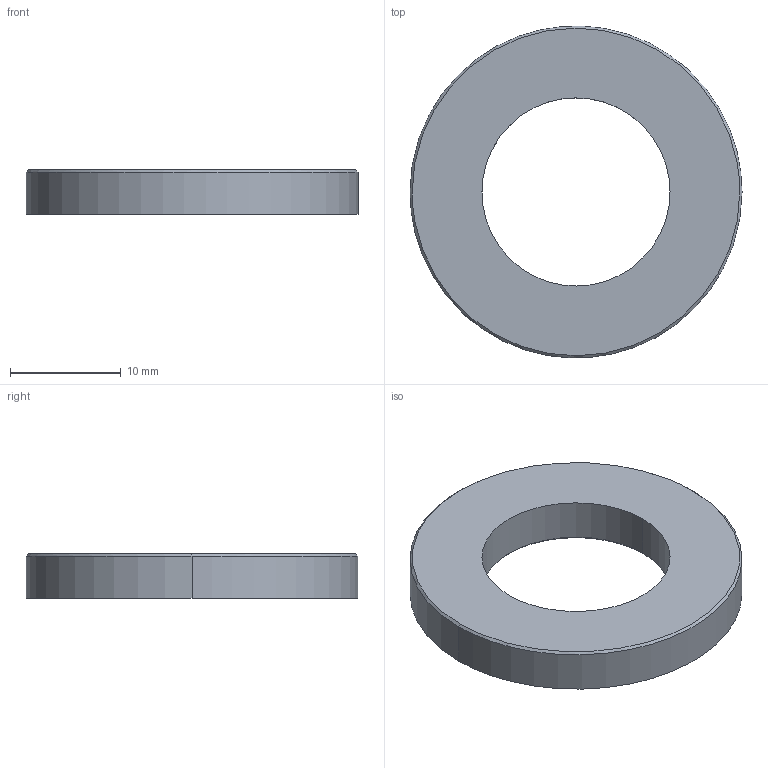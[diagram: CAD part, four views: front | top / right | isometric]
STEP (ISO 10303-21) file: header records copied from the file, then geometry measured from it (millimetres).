
FILE_DESCRIPTION(/* description */ (''),/* implementation_level */ '2;1');
FILE_NAME(/* name */ 'Washer2',/* time_stamp */ '2020-06-25T00:33:49-06:00',/* author */ (''),/* organization */ (''),/* preprocessor_version */ 'ST-DEVELOPER v15',/* originating_system */ '',/* authorisation */ '');
FILE_SCHEMA (('AUTOMOTIVE_DESIGN'));
Length unit declared in the file: millimetre
Products named in the file (1): Document
Bounding box: 30 x 29.97 x 4 mm (x, y, z)
Volume: 1920.3 mm3; surface area: 1533.8 mm2
Topology: 1 solids, 1 shells, 10 faces, 20 edges, 12 vertices
Faces by surface type: bspline 8, plane 2
Entity records: 543 total; most frequent: CARTESIAN_POINT 385, ORIENTED_EDGE 40, EDGE_CURVE 20, EDGE_LOOP 12, VERTEX_POINT 12, ADVANCED_FACE 10, FACE_OUTER_BOUND 10, B_SPLINE_CURVE_WITH_KNOTS 8
